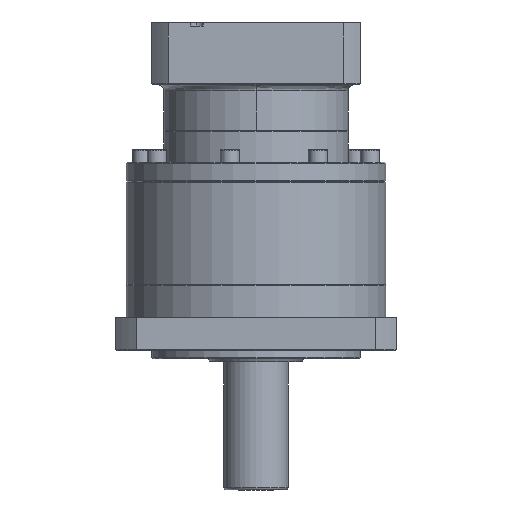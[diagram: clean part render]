
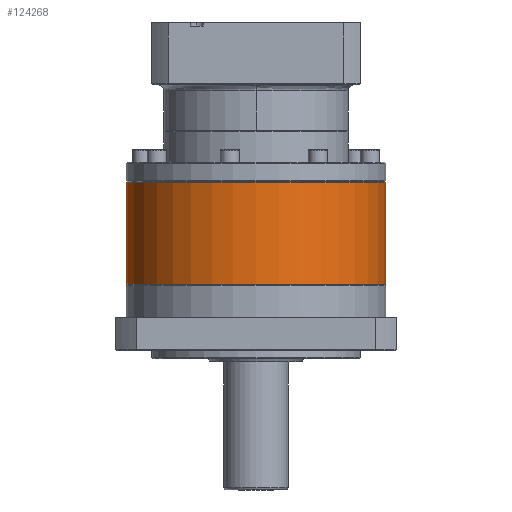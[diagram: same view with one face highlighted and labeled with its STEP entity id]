
A CAD part, front view. The second image highlights one B-rep face of the part: STEP entity #124268.
In plain terms, the highlighted cylindrical face has radius 81 mm (diameter 162 mm), a partial arc.
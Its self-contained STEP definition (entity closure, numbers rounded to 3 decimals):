
#58 = CARTESIAN_POINT ( 'NONE',  ( -41.072, 75.264, -190.734 ) ) ;
#13829 = EDGE_LOOP ( 'NONE', ( #80665, #90978, #91206, #61553 ) ) ;
#15611 = DIRECTION ( 'NONE',  ( 0., 0., -1. ) ) ;
#18270 = CARTESIAN_POINT ( 'NONE',  ( -41.072, 75.264, -127.234 ) ) ;
#27908 = CARTESIAN_POINT ( 'NONE',  ( -122.072, 75.264, -127.234 ) ) ;
#29442 = CIRCLE ( 'NONE', #103564, 81. ) ;
#37654 = CARTESIAN_POINT ( 'NONE',  ( -122.072, 75.264, -190.734 ) ) ;
#46347 = CYLINDRICAL_SURFACE ( 'NONE', #61510, 81. ) ;
#54671 = CARTESIAN_POINT ( 'NONE',  ( -203.072, 75.264, -126.734 ) ) ;
#58224 = CARTESIAN_POINT ( 'NONE',  ( -122.072, 75.264, -126.734 ) ) ;
#60612 = VECTOR ( 'NONE', #87661, 1000. ) ;
#61510 = AXIS2_PLACEMENT_3D ( 'NONE', #58224, #93224, #137471 ) ;
#61553 = ORIENTED_EDGE ( 'NONE', *, *, #134552, .T. ) ;
#62125 = FACE_OUTER_BOUND ( 'NONE', #13829, .T. ) ;
#70512 = VECTOR ( 'NONE', #145681, 1000. ) ;
#72085 = DIRECTION ( 'NONE',  ( 0., 0., 1. ) ) ;
#74074 = LINE ( 'NONE', #100469, #70512 ) ;
#75332 = CIRCLE ( 'NONE', #84369, 81. ) ;
#78907 = VERTEX_POINT ( 'NONE', #18270 ) ;
#80665 = ORIENTED_EDGE ( 'NONE', *, *, #144469, .F. ) ;
#81993 = DIRECTION ( 'NONE',  ( -1., 0., 0. ) ) ;
#84369 = AXIS2_PLACEMENT_3D ( 'NONE', #37654, #72085, #81993 ) ;
#87661 = DIRECTION ( 'NONE',  ( 0., 0., -1. ) ) ;
#89314 = CARTESIAN_POINT ( 'NONE',  ( -203.072, 75.264, -127.234 ) ) ;
#90978 = ORIENTED_EDGE ( 'NONE', *, *, #130893, .T. ) ;
#91206 = ORIENTED_EDGE ( 'NONE', *, *, #102581, .T. ) ;
#93224 = DIRECTION ( 'NONE',  ( 0., 0., -1. ) ) ;
#94371 = VERTEX_POINT ( 'NONE', #141475 ) ;
#100469 = CARTESIAN_POINT ( 'NONE',  ( -41.072, 75.264, -126.734 ) ) ;
#102581 = EDGE_CURVE ( 'NONE', #103506, #94371, #106447, .T. ) ;
#103506 = VERTEX_POINT ( 'NONE', #89314 ) ;
#103564 = AXIS2_PLACEMENT_3D ( 'NONE', #27908, #15611, #139183 ) ;
#106447 = LINE ( 'NONE', #54671, #60612 ) ;
#124268 = ADVANCED_FACE ( 'NONE', ( #62125 ), #46347, .T. ) ;
#125677 = VERTEX_POINT ( 'NONE', #58 ) ;
#130893 = EDGE_CURVE ( 'NONE', #78907, #103506, #29442, .T. ) ;
#134552 = EDGE_CURVE ( 'NONE', #94371, #125677, #75332, .T. ) ;
#137471 = DIRECTION ( 'NONE',  ( -1., 0., 0. ) ) ;
#139183 = DIRECTION ( 'NONE',  ( -1., 0., 0. ) ) ;
#141475 = CARTESIAN_POINT ( 'NONE',  ( -203.072, 75.264, -190.734 ) ) ;
#144469 = EDGE_CURVE ( 'NONE', #78907, #125677, #74074, .T. ) ;
#145681 = DIRECTION ( 'NONE',  ( 0., 0., -1. ) ) ;
